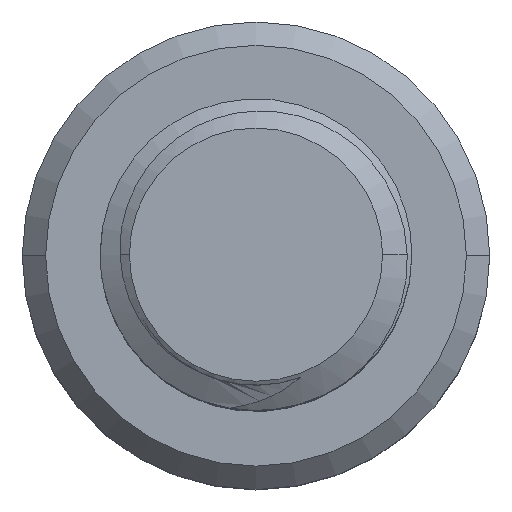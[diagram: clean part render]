
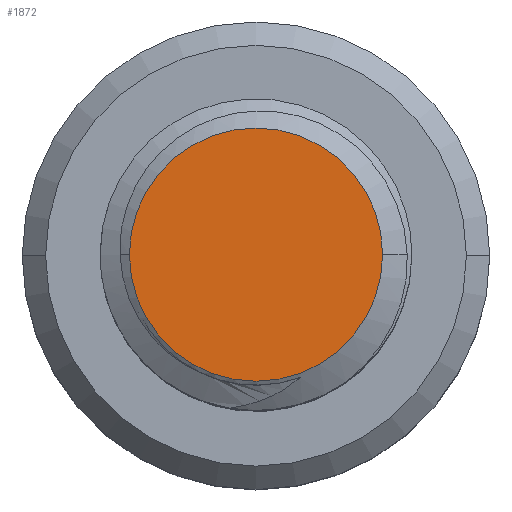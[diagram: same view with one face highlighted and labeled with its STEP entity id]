
A CAD part, top view. The second image highlights one B-rep face of the part: STEP entity #1872.
In plain terms, the highlighted planar face has unit normal (0, 0, 1).
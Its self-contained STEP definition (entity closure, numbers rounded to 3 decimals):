
#388 = CARTESIAN_POINT ( 'NONE',  ( 0., 0., 0. ) ) ;
#401 = PLANE ( 'NONE',  #3941 ) ;
#473 = AXIS2_PLACEMENT_3D ( 'NONE', #941, #3467, #1338 ) ;
#795 = DIRECTION ( 'NONE',  ( 1., 0., 0. ) ) ;
#941 = CARTESIAN_POINT ( 'NONE',  ( 0., 0., 0. ) ) ;
#1010 = ORIENTED_EDGE ( 'NONE', *, *, #2964, .T. ) ;
#1200 = CARTESIAN_POINT ( 'NONE',  ( -8.122, 0., 0. ) ) ;
#1338 = DIRECTION ( 'NONE',  ( 1., 0., 0. ) ) ;
#1613 = CIRCLE ( 'NONE', #473, 8.122 ) ;
#1872 = ADVANCED_FACE ( 'NONE', ( #3668 ), #401, .T. ) ;
#1902 = DIRECTION ( 'NONE',  ( 0., 0., 1. ) ) ;
#2118 = VERTEX_POINT ( 'NONE', #1200 ) ;
#2466 = AXIS2_PLACEMENT_3D ( 'NONE', #4039, #1902, #4404 ) ;
#2964 = EDGE_CURVE ( 'NONE', #2967, #2118, #1613, .T. ) ;
#2967 = VERTEX_POINT ( 'NONE', #3098 ) ;
#2979 = DIRECTION ( 'NONE',  ( 0., 0., 1. ) ) ;
#3098 = CARTESIAN_POINT ( 'NONE',  ( 8.122, 0., 0. ) ) ;
#3467 = DIRECTION ( 'NONE',  ( 0., 0., 1. ) ) ;
#3668 = FACE_OUTER_BOUND ( 'NONE', #3681, .T. ) ;
#3681 = EDGE_LOOP ( 'NONE', ( #3694, #1010 ) ) ;
#3694 = ORIENTED_EDGE ( 'NONE', *, *, #3872, .T. ) ;
#3872 = EDGE_CURVE ( 'NONE', #2118, #2967, #4473, .T. ) ;
#3941 = AXIS2_PLACEMENT_3D ( 'NONE', #388, #2979, #795 ) ;
#4039 = CARTESIAN_POINT ( 'NONE',  ( 0., 0., 0. ) ) ;
#4404 = DIRECTION ( 'NONE',  ( 1., 0., 0. ) ) ;
#4473 = CIRCLE ( 'NONE', #2466, 8.122 ) ;
